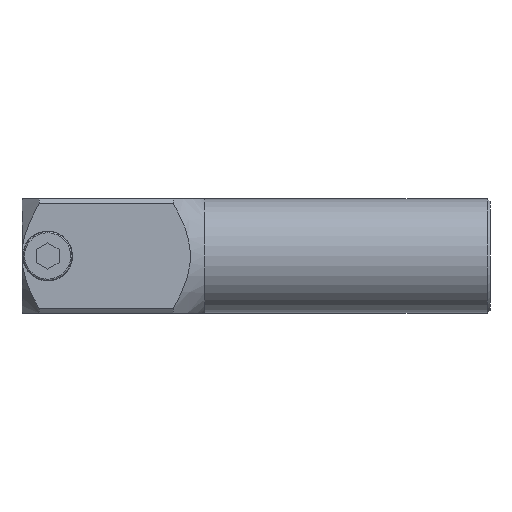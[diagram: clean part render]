
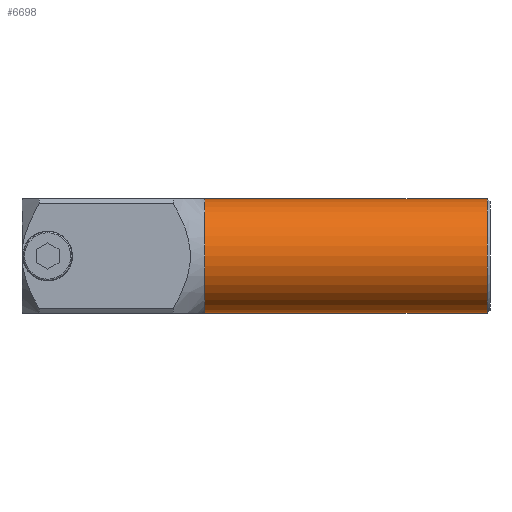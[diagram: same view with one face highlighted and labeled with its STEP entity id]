
A CAD part, left-side view. The second image highlights one B-rep face of the part: STEP entity #6698.
In plain terms, the highlighted cylindrical face has radius 10 mm (diameter 20 mm), a partial arc.
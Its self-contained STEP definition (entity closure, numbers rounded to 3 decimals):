
#76 = CARTESIAN_POINT ( 'NONE',  ( 0.251, 31.443, -10. ) ) ;
#659 = VECTOR ( 'NONE', #6199, 1000. ) ;
#743 = CIRCLE ( 'NONE', #2573, 10. ) ;
#887 = VERTEX_POINT ( 'NONE', #76 ) ;
#1264 = CARTESIAN_POINT ( 'NONE',  ( 0.251, -18.057, 0. ) ) ;
#1655 = EDGE_CURVE ( 'NONE', #11308, #887, #4554, .T. ) ;
#1805 = CARTESIAN_POINT ( 'NONE',  ( 0.251, -18.057, 10. ) ) ;
#2369 = CARTESIAN_POINT ( 'NONE',  ( 0.251, 31.443, -10. ) ) ;
#2379 = EDGE_LOOP ( 'NONE', ( #3307, #9718, #7876, #7299 ) ) ;
#2573 = AXIS2_PLACEMENT_3D ( 'NONE', #1264, #9069, #7001 ) ;
#2733 = DIRECTION ( 'NONE',  ( 0., -1., 0. ) ) ;
#3307 = ORIENTED_EDGE ( 'NONE', *, *, #5613, .F. ) ;
#3338 = CARTESIAN_POINT ( 'NONE',  ( 0.251, 31.443, 10. ) ) ;
#3431 = FACE_OUTER_BOUND ( 'NONE', #2379, .T. ) ;
#3495 = CYLINDRICAL_SURFACE ( 'NONE', #10797, 10. ) ;
#3691 = VERTEX_POINT ( 'NONE', #1805 ) ;
#3700 = VECTOR ( 'NONE', #12117, 1000. ) ;
#4302 = DIRECTION ( 'NONE',  ( -1., 0., 0. ) ) ;
#4554 = CIRCLE ( 'NONE', #9375, 10. ) ;
#5544 = CARTESIAN_POINT ( 'NONE',  ( 0.251, 31.443, 0. ) ) ;
#5613 = EDGE_CURVE ( 'NONE', #11308, #3691, #7288, .T. ) ;
#6199 = DIRECTION ( 'NONE',  ( 0., -1., 0. ) ) ;
#6297 = VERTEX_POINT ( 'NONE', #9638 ) ;
#6698 = ADVANCED_FACE ( 'NONE', ( #3431 ), #3495, .T. ) ;
#7001 = DIRECTION ( 'NONE',  ( 0., 0., -1. ) ) ;
#7013 = EDGE_CURVE ( 'NONE', #3691, #6297, #743, .T. ) ;
#7142 = CARTESIAN_POINT ( 'NONE',  ( 0.251, 31.443, 0. ) ) ;
#7288 = LINE ( 'NONE', #11124, #3700 ) ;
#7299 = ORIENTED_EDGE ( 'NONE', *, *, #7013, .F. ) ;
#7876 = ORIENTED_EDGE ( 'NONE', *, *, #10910, .T. ) ;
#8080 = DIRECTION ( 'NONE',  ( 0., -1., 0. ) ) ;
#9069 = DIRECTION ( 'NONE',  ( 0., -1., 0. ) ) ;
#9375 = AXIS2_PLACEMENT_3D ( 'NONE', #7142, #8080, #4302 ) ;
#9638 = CARTESIAN_POINT ( 'NONE',  ( 0.251, -18.057, -10. ) ) ;
#9718 = ORIENTED_EDGE ( 'NONE', *, *, #1655, .T. ) ;
#10395 = DIRECTION ( 'NONE',  ( 0., 0., -1. ) ) ;
#10797 = AXIS2_PLACEMENT_3D ( 'NONE', #5544, #2733, #10395 ) ;
#10910 = EDGE_CURVE ( 'NONE', #887, #6297, #10975, .T. ) ;
#10975 = LINE ( 'NONE', #2369, #659 ) ;
#11124 = CARTESIAN_POINT ( 'NONE',  ( 0.251, 31.443, 10. ) ) ;
#11308 = VERTEX_POINT ( 'NONE', #3338 ) ;
#12117 = DIRECTION ( 'NONE',  ( 0., -1., 0. ) ) ;
